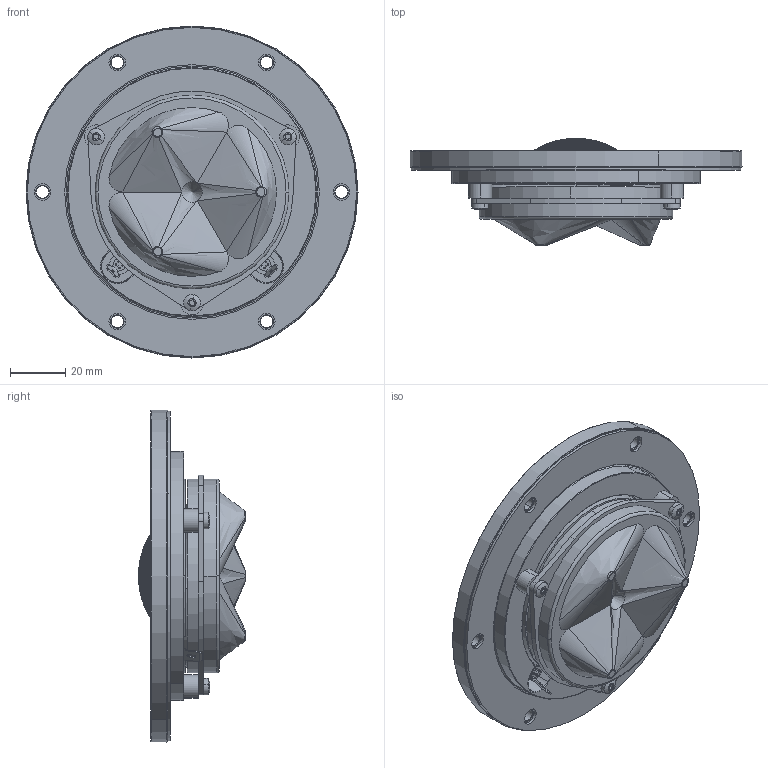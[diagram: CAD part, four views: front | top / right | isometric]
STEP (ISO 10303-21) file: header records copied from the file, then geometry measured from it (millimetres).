
FILE_DESCRIPTION (( 'STEP AP214' ), '1' );
FILE_NAME ('D2908-714000.STEP', '2020-12-17T11:35:08', ( '' ), ( '' ), 'SwSTEP 2.0', 'SolidWorks 2019', '' );
FILE_SCHEMA (( 'AUTOMOTIVE_DESIGN' ));
Length unit declared in the file: millimetre
Products named in the file (1): D2908-714000
Bounding box: 119.99 x 38.71 x 119.99 mm (x, y, z)
Surface area: 49412.1 mm2 (no closed solid volume)
Topology: 0 solids, 25 shells, 3386 faces, 13514 edges, 9799 vertices
Faces by surface type: plane 3094, cylinder 139, torus 90, bspline 32, cone 21, sphere 10
Entity records: 185304 total; most frequent: CARTESIAN_POINT 31626, DIRECTION 27867, ORIENTED_EDGE 20013, EDGE_CURVE 13512, AXIS2_PLACEMENT_3D 11733, VERTEX_POINT 9799, CIRCLE 8378, EDGE_LOOP 4408
